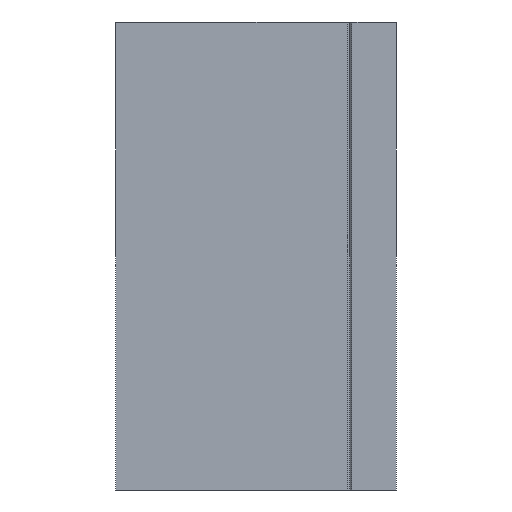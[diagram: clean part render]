
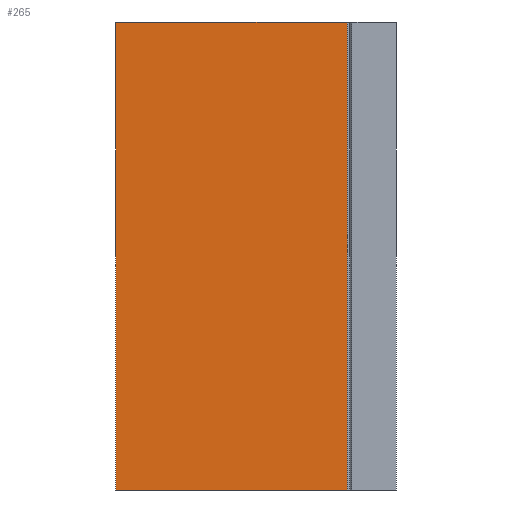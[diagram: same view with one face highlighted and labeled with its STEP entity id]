
A CAD part, front view. The second image highlights one B-rep face of the part: STEP entity #265.
In plain terms, the highlighted planar face has unit normal (0, -1, 0).
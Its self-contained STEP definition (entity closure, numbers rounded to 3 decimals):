
#44 = PLANE ( 'NONE',  #462 ) ;
#52 = ORIENTED_EDGE ( 'NONE', *, *, #379, .T. ) ;
#66 = LINE ( 'NONE', #513, #720 ) ;
#75 = DIRECTION ( 'NONE',  ( 0., 0., 1. ) ) ;
#78 = CARTESIAN_POINT ( 'NONE',  ( 19.5, 0., -50. ) ) ;
#83 = EDGE_CURVE ( 'NONE', #411, #403, #765, .T. ) ;
#119 = CARTESIAN_POINT ( 'NONE',  ( -30., 0., 0. ) ) ;
#165 = DIRECTION ( 'NONE',  ( 1., 0., 0. ) ) ;
#172 = VECTOR ( 'NONE', #165, 1000. ) ;
#184 = CARTESIAN_POINT ( 'NONE',  ( 30., 0., -50. ) ) ;
#186 = DIRECTION ( 'NONE',  ( 1., 0., 0. ) ) ;
#187 = CARTESIAN_POINT ( 'NONE',  ( 30., 0., 0. ) ) ;
#204 = EDGE_CURVE ( 'NONE', #411, #304, #821, .T. ) ;
#225 = ORIENTED_EDGE ( 'NONE', *, *, #83, .T. ) ;
#243 = ORIENTED_EDGE ( 'NONE', *, *, #204, .F. ) ;
#265 = ADVANCED_FACE ( 'NONE', ( #312 ), #44, .T. ) ;
#281 = CARTESIAN_POINT ( 'NONE',  ( -0.284, 0., 50. ) ) ;
#304 = VERTEX_POINT ( 'NONE', #509 ) ;
#312 = FACE_OUTER_BOUND ( 'NONE', #742, .T. ) ;
#357 = ORIENTED_EDGE ( 'NONE', *, *, #773, .F. ) ;
#379 = EDGE_CURVE ( 'NONE', #403, #554, #66, .T. ) ;
#403 = VERTEX_POINT ( 'NONE', #78 ) ;
#411 = VERTEX_POINT ( 'NONE', #516 ) ;
#415 = LINE ( 'NONE', #281, #172 ) ;
#434 = DIRECTION ( 'NONE',  ( 0., 0., 1. ) ) ;
#462 = AXIS2_PLACEMENT_3D ( 'NONE', #187, #572, #762 ) ;
#470 = CARTESIAN_POINT ( 'NONE',  ( 19.5, 0., 50. ) ) ;
#509 = CARTESIAN_POINT ( 'NONE',  ( -30., 0., 50. ) ) ;
#513 = CARTESIAN_POINT ( 'NONE',  ( 19.5, 0., 0. ) ) ;
#516 = CARTESIAN_POINT ( 'NONE',  ( -30., 0., -50. ) ) ;
#554 = VERTEX_POINT ( 'NONE', #470 ) ;
#572 = DIRECTION ( 'NONE',  ( 0., -1., 0. ) ) ;
#675 = VECTOR ( 'NONE', #186, 1000. ) ;
#720 = VECTOR ( 'NONE', #75, 1000. ) ;
#728 = VECTOR ( 'NONE', #434, 1000. ) ;
#742 = EDGE_LOOP ( 'NONE', ( #243, #225, #52, #357 ) ) ;
#762 = DIRECTION ( 'NONE',  ( 0., 0., -1. ) ) ;
#765 = LINE ( 'NONE', #184, #675 ) ;
#773 = EDGE_CURVE ( 'NONE', #304, #554, #415, .T. ) ;
#821 = LINE ( 'NONE', #119, #728 ) ;
